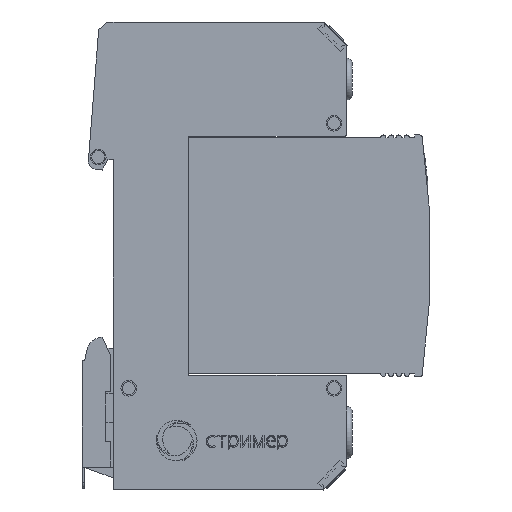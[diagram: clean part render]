
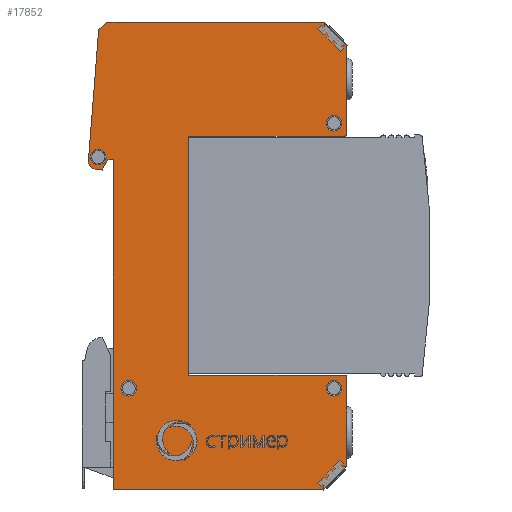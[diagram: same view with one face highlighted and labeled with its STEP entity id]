
A CAD part, front view. The second image highlights one B-rep face of the part: STEP entity #17852.
In plain terms, the highlighted planar face has unit normal (0, -1, 0).
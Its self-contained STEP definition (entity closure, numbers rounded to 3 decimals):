
#16032=CARTESIAN_POINT('',(-14.5,-9.,-45.));
#16033=VERTEX_POINT('',#16032);
#16034=CARTESIAN_POINT('',(26.,-9.,-45.));
#16035=VERTEX_POINT('',#16034);
#16036=CARTESIAN_POINT('',(-14.5,-9.,-45.));
#16037=DIRECTION('',(1.,0.,-0.));
#16038=VECTOR('',#16037,40.5);
#16039=LINE('',#16036,#16038);
#16040=EDGE_CURVE('',#16033,#16035,#16039,.T.);
#16702=CARTESIAN_POINT('',(-14.5,-9.,18.5));
#16703=VERTEX_POINT('',#16702);
#16704=CARTESIAN_POINT('',(-14.5,-9.,18.5));
#16705=DIRECTION('',(0.,0.,-1.));
#16706=VECTOR('',#16705,63.5);
#16707=LINE('',#16704,#16706);
#16708=EDGE_CURVE('',#16703,#16033,#16707,.T.);
#16903=CARTESIAN_POINT('',(-15.5,-9.,45.));
#16904=VERTEX_POINT('',#16903);
#16905=CARTESIAN_POINT('',(-17.29,-9.,43.498));
#16906=VERTEX_POINT('',#16905);
#16907=CARTESIAN_POINT('',(-15.5,-9.,45.));
#16908=DIRECTION('',(-0.766,0.,-0.643));
#16909=VECTOR('',#16908,2.337);
#16910=LINE('',#16907,#16909);
#16911=EDGE_CURVE('',#16904,#16906,#16910,.T.);
#16943=CARTESIAN_POINT('',(-19.273,-9.,18.306));
#16944=VERTEX_POINT('',#16943);
#16945=CARTESIAN_POINT('',(-17.29,-9.,43.498));
#16946=DIRECTION('',(-0.078,0.,-0.997));
#16947=VECTOR('',#16946,25.27);
#16948=LINE('',#16945,#16947);
#16949=EDGE_CURVE('',#16906,#16944,#16948,.T.);
#16974=CARTESIAN_POINT('',(-17.999,-9.,16.704));
#16975=VERTEX_POINT('',#16974);
#16976=CARTESIAN_POINT('',(-17.777,-9.,18.188));
#16977=DIRECTION('',(0.,-1.,0.));
#16978=DIRECTION('',(0.,0.,1.));
#16979=AXIS2_PLACEMENT_3D('',#16976,#16977,#16978);
#16980=CIRCLE('',#16979,1.5);
#16981=EDGE_CURVE('',#16944,#16975,#16980,.T.);
#17007=CARTESIAN_POINT('',(-16.632,-9.,16.5));
#17008=VERTEX_POINT('',#17007);
#17009=CARTESIAN_POINT('',(-17.999,-9.,16.704));
#17010=DIRECTION('',(0.989,0.,-0.148));
#17011=VECTOR('',#17010,1.383);
#17012=LINE('',#17009,#17011);
#17013=EDGE_CURVE('',#16975,#17008,#17012,.T.);
#17038=CARTESIAN_POINT('',(-15.5,-9.,18.5));
#17039=VERTEX_POINT('',#17038);
#17040=CARTESIAN_POINT('',(-16.632,-9.,16.5));
#17041=DIRECTION('',(0.492,0.,0.87));
#17042=VECTOR('',#17041,2.298);
#17043=LINE('',#17040,#17042);
#17044=EDGE_CURVE('',#17008,#17039,#17043,.T.);
#17069=CARTESIAN_POINT('',(-15.5,-9.,18.5));
#17070=DIRECTION('',(1.,0.,0.));
#17071=VECTOR('',#17070,1.);
#17072=LINE('',#17069,#17071);
#17073=EDGE_CURVE('',#17039,#16703,#17072,.T.);
#17091=CARTESIAN_POINT('',(30.5,-9.,-40.5));
#17092=VERTEX_POINT('',#17091);
#17093=CARTESIAN_POINT('',(26.,-9.,-45.));
#17094=DIRECTION('',(0.707,0.,0.707));
#17095=VECTOR('',#17094,6.364);
#17096=LINE('',#17093,#17095);
#17097=EDGE_CURVE('',#16035,#17092,#17096,.T.);
#17142=CARTESIAN_POINT('',(30.5,-9.,-23.5));
#17143=VERTEX_POINT('',#17142);
#17144=CARTESIAN_POINT('',(30.5,-9.,-40.5));
#17145=DIRECTION('',(0.,0.,1.));
#17146=VECTOR('',#17145,17.);
#17147=LINE('',#17144,#17146);
#17148=EDGE_CURVE('',#17092,#17143,#17147,.T.);
#17173=CARTESIAN_POINT('',(30.,-9.,-23.));
#17174=VERTEX_POINT('',#17173);
#17175=CARTESIAN_POINT('',(30.,-9.,-23.5));
#17176=DIRECTION('',(0.,-1.,0.));
#17177=DIRECTION('',(0.,0.,1.));
#17178=AXIS2_PLACEMENT_3D('',#17175,#17176,#17177);
#17179=CIRCLE('',#17178,0.5);
#17180=EDGE_CURVE('',#17143,#17174,#17179,.T.);
#17206=CARTESIAN_POINT('',(0.,-9.,-23.));
#17207=VERTEX_POINT('',#17206);
#17208=CARTESIAN_POINT('',(30.,-9.,-23.));
#17209=DIRECTION('',(-1.,0.,0.));
#17210=VECTOR('',#17209,30.);
#17211=LINE('',#17208,#17210);
#17212=EDGE_CURVE('',#17174,#17207,#17211,.T.);
#17237=CARTESIAN_POINT('',(0.,-9.,23.));
#17238=VERTEX_POINT('',#17237);
#17239=CARTESIAN_POINT('',(0.,-9.,-23.));
#17240=DIRECTION('',(0.,0.,1.));
#17241=VECTOR('',#17240,46.);
#17242=LINE('',#17239,#17241);
#17243=EDGE_CURVE('',#17207,#17238,#17242,.T.);
#17268=CARTESIAN_POINT('',(30.,-9.,23.));
#17269=VERTEX_POINT('',#17268);
#17270=CARTESIAN_POINT('',(0.,-9.,23.));
#17271=DIRECTION('',(1.,0.,0.));
#17272=VECTOR('',#17271,30.);
#17273=LINE('',#17270,#17272);
#17274=EDGE_CURVE('',#17238,#17269,#17273,.T.);
#17299=CARTESIAN_POINT('',(30.5,-9.,23.5));
#17300=VERTEX_POINT('',#17299);
#17301=CARTESIAN_POINT('',(30.,-9.,23.5));
#17302=DIRECTION('',(0.,-1.,0.));
#17303=DIRECTION('',(0.,0.,1.));
#17304=AXIS2_PLACEMENT_3D('',#17301,#17302,#17303);
#17305=CIRCLE('',#17304,0.5);
#17306=EDGE_CURVE('',#17269,#17300,#17305,.T.);
#17372=CARTESIAN_POINT('',(30.5,-9.,40.5));
#17373=VERTEX_POINT('',#17372);
#17374=CARTESIAN_POINT('',(30.5,-9.,23.5));
#17375=DIRECTION('',(0.,0.,1.));
#17376=VECTOR('',#17375,17.);
#17377=LINE('',#17374,#17376);
#17378=EDGE_CURVE('',#17300,#17373,#17377,.T.);
#17403=CARTESIAN_POINT('',(26.,-9.,45.));
#17404=VERTEX_POINT('',#17403);
#17405=CARTESIAN_POINT('',(30.5,-9.,40.5));
#17406=DIRECTION('',(-0.707,0.,0.707));
#17407=VECTOR('',#17406,6.364);
#17408=LINE('',#17405,#17407);
#17409=EDGE_CURVE('',#17373,#17404,#17408,.T.);
#17434=CARTESIAN_POINT('',(-17.38,-9.,17.5));
#17435=VERTEX_POINT('',#17434);
#17444=CARTESIAN_POINT('',(-18.88,-9.,19.));
#17445=VERTEX_POINT('',#17444);
#17446=CARTESIAN_POINT('',(-17.38,-9.,19.));
#17447=DIRECTION('',(0.,-1.,0.));
#17448=DIRECTION('',(-1.,0.,0.));
#17449=AXIS2_PLACEMENT_3D('',#17446,#17447,#17448);
#17450=CIRCLE('',#17449,1.5);
#17451=EDGE_CURVE('',#17435,#17445,#17450,.T.);
#17476=CARTESIAN_POINT('',(28.,-9.,24.));
#17477=VERTEX_POINT('',#17476);
#17486=CARTESIAN_POINT('',(26.5,-9.,25.5));
#17487=VERTEX_POINT('',#17486);
#17488=CARTESIAN_POINT('',(28.,-9.,25.5));
#17489=DIRECTION('',(0.,-1.,0.));
#17490=DIRECTION('',(-1.,0.,0.));
#17491=AXIS2_PLACEMENT_3D('',#17488,#17489,#17490);
#17492=CIRCLE('',#17491,1.5);
#17493=EDGE_CURVE('',#17477,#17487,#17492,.T.);
#17518=CARTESIAN_POINT('',(-11.5,-9.,-27.));
#17519=VERTEX_POINT('',#17518);
#17528=CARTESIAN_POINT('',(-13.,-9.,-25.5));
#17529=VERTEX_POINT('',#17528);
#17530=CARTESIAN_POINT('',(-11.5,-9.,-25.5));
#17531=DIRECTION('',(0.,-1.,0.));
#17532=DIRECTION('',(-1.,0.,0.));
#17533=AXIS2_PLACEMENT_3D('',#17530,#17531,#17532);
#17534=CIRCLE('',#17533,1.5);
#17535=EDGE_CURVE('',#17519,#17529,#17534,.T.);
#17560=CARTESIAN_POINT('',(28.,-9.,-27.));
#17561=VERTEX_POINT('',#17560);
#17570=CARTESIAN_POINT('',(26.5,-9.,-25.5));
#17571=VERTEX_POINT('',#17570);
#17572=CARTESIAN_POINT('',(28.,-9.,-25.5));
#17573=DIRECTION('',(0.,-1.,0.));
#17574=DIRECTION('',(-1.,0.,0.));
#17575=AXIS2_PLACEMENT_3D('',#17572,#17573,#17574);
#17576=CIRCLE('',#17575,1.5);
#17577=EDGE_CURVE('',#17561,#17571,#17576,.T.);
#17704=CARTESIAN_POINT('',(26.,-9.,45.));
#17705=DIRECTION('',(-1.,0.,0.));
#17706=VECTOR('',#17705,41.5);
#17707=LINE('',#17704,#17706);
#17708=EDGE_CURVE('',#17404,#16904,#17707,.T.);
#17787=CARTESIAN_POINT('',(0.,-9.,0.));
#17788=DIRECTION('',(0.,-1.,0.));
#17789=DIRECTION('',(0.,0.,1.));
#17790=AXIS2_PLACEMENT_3D('',#17787,#17788,#17789);
#17791=PLANE('',#17790);
#17792=ORIENTED_EDGE('',*,*,#17577,.F.);
#17793=CARTESIAN_POINT('',(28.,-9.,-25.5));
#17794=DIRECTION('',(0.,-1.,0.));
#17795=DIRECTION('',(-1.,0.,0.));
#17796=AXIS2_PLACEMENT_3D('',#17793,#17794,#17795);
#17797=CIRCLE('',#17796,1.5);
#17798=EDGE_CURVE('',#17571,#17561,#17797,.T.);
#17799=ORIENTED_EDGE('',*,*,#17798,.F.);
#17800=EDGE_LOOP('',(#17792,#17799));
#17801=FACE_BOUND('',#17800,.T.);
#17802=ORIENTED_EDGE('',*,*,#17535,.F.);
#17803=CARTESIAN_POINT('',(-11.5,-9.,-25.5));
#17804=DIRECTION('',(0.,-1.,0.));
#17805=DIRECTION('',(-1.,0.,0.));
#17806=AXIS2_PLACEMENT_3D('',#17803,#17804,#17805);
#17807=CIRCLE('',#17806,1.5);
#17808=EDGE_CURVE('',#17529,#17519,#17807,.T.);
#17809=ORIENTED_EDGE('',*,*,#17808,.F.);
#17810=EDGE_LOOP('',(#17802,#17809));
#17811=FACE_BOUND('',#17810,.T.);
#17812=ORIENTED_EDGE('',*,*,#17493,.F.);
#17813=CARTESIAN_POINT('',(28.,-9.,25.5));
#17814=DIRECTION('',(0.,-1.,0.));
#17815=DIRECTION('',(-1.,0.,0.));
#17816=AXIS2_PLACEMENT_3D('',#17813,#17814,#17815);
#17817=CIRCLE('',#17816,1.5);
#17818=EDGE_CURVE('',#17487,#17477,#17817,.T.);
#17819=ORIENTED_EDGE('',*,*,#17818,.F.);
#17820=EDGE_LOOP('',(#17812,#17819));
#17821=FACE_BOUND('',#17820,.T.);
#17822=ORIENTED_EDGE('',*,*,#17451,.F.);
#17823=CARTESIAN_POINT('',(-17.38,-9.,19.));
#17824=DIRECTION('',(0.,-1.,0.));
#17825=DIRECTION('',(-1.,0.,0.));
#17826=AXIS2_PLACEMENT_3D('',#17823,#17824,#17825);
#17827=CIRCLE('',#17826,1.5);
#17828=EDGE_CURVE('',#17445,#17435,#17827,.T.);
#17829=ORIENTED_EDGE('',*,*,#17828,.F.);
#17830=EDGE_LOOP('',(#17822,#17829));
#17831=FACE_BOUND('',#17830,.T.);
#17832=ORIENTED_EDGE('',*,*,#16911,.T.);
#17833=ORIENTED_EDGE('',*,*,#16949,.T.);
#17834=ORIENTED_EDGE('',*,*,#16981,.T.);
#17835=ORIENTED_EDGE('',*,*,#17013,.T.);
#17836=ORIENTED_EDGE('',*,*,#17044,.T.);
#17837=ORIENTED_EDGE('',*,*,#17073,.T.);
#17838=ORIENTED_EDGE('',*,*,#16708,.T.);
#17839=ORIENTED_EDGE('',*,*,#16040,.T.);
#17840=ORIENTED_EDGE('',*,*,#17097,.T.);
#17841=ORIENTED_EDGE('',*,*,#17148,.T.);
#17842=ORIENTED_EDGE('',*,*,#17180,.T.);
#17843=ORIENTED_EDGE('',*,*,#17212,.T.);
#17844=ORIENTED_EDGE('',*,*,#17243,.T.);
#17845=ORIENTED_EDGE('',*,*,#17274,.T.);
#17846=ORIENTED_EDGE('',*,*,#17306,.T.);
#17847=ORIENTED_EDGE('',*,*,#17378,.T.);
#17848=ORIENTED_EDGE('',*,*,#17409,.T.);
#17849=ORIENTED_EDGE('',*,*,#17708,.T.);
#17850=EDGE_LOOP('',(#17832,#17833,#17834,#17835,#17836,#17837,#17838,#17839,#17840,#17841,#17842,#17843,#17844,#17845,#17846,#17847,#17848,#17849));
#17851=FACE_BOUND('',#17850,.T.);
#17852=ADVANCED_FACE('',(#17801,#17811,#17821,#17831,#17851),#17791,.T.);
